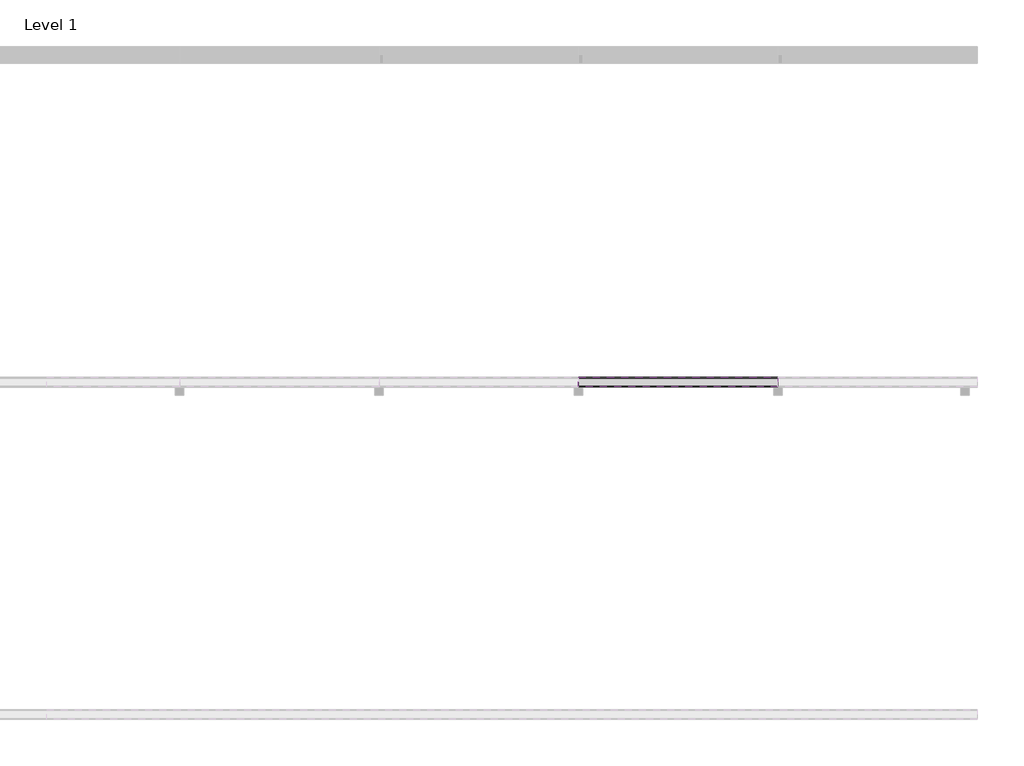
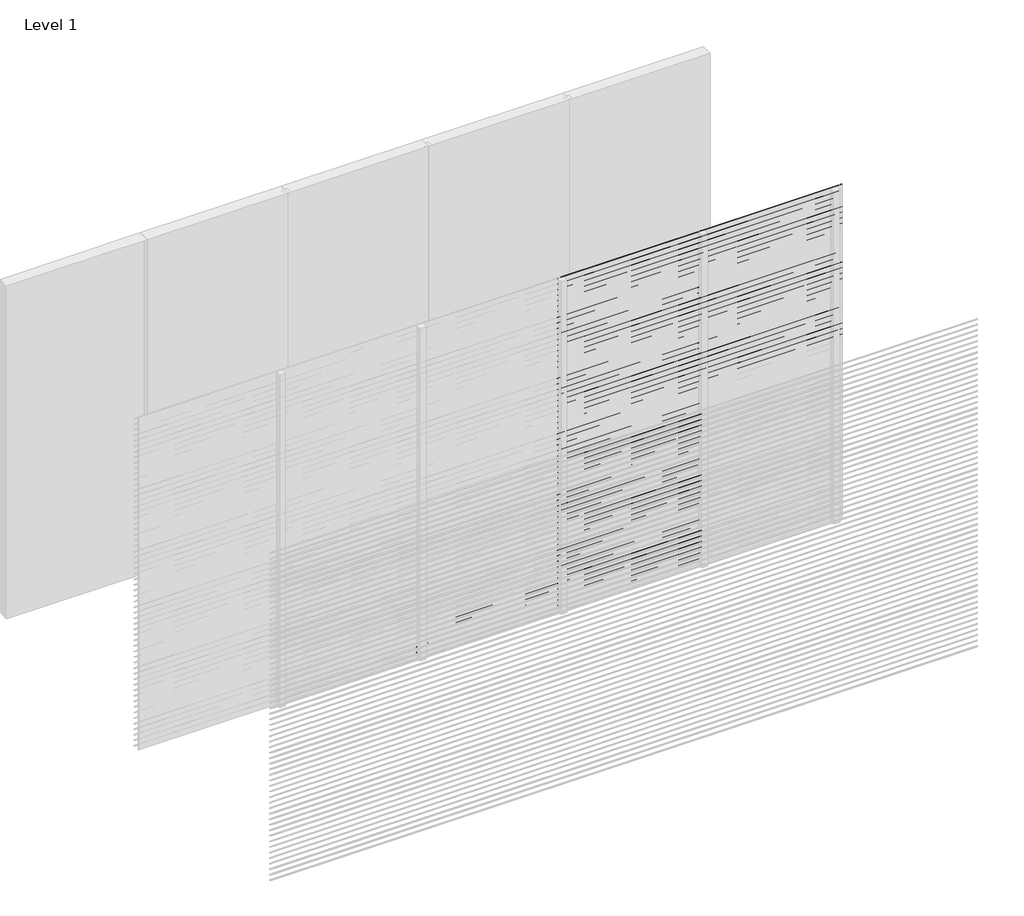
# One storey, part 12 of 16: 93 proxies.
"""IFC4 building model written with IfcOpenShell, lengths in millimetres."""

from ifc_helpers import new_model, si_unit, frame, origin, place, context, project, spatial, polyline, outline, extrude, element, save

model = new_model("IFC4")

# Units and contexts
model_context = context("Model", 3, world=origin())
ifc_project = project(units=[si_unit("LENGTHUNIT", "METRE", prefix="MILLI")], contexts=[model_context])

# Site, building, storey
site = spatial("IfcSite", under=ifc_project)
building = spatial("IfcBuilding", under=site)
storey = spatial("IfcBuildingStorey", under=building, Name="Level 1", Elevation=0.0)

# Proxies
placement = place(None, origin())
element("IfcBuildingElementProxy", 1, Name="Wall Sweeps", at=placement, inside=storey, context=model_context, shape_type="SweptSolid", body=[
    extrude(outline(polyline([(-5995.0, 250.0), (-5995.0, 248.0), (-5939.0, 204.0), (-5939.0, 196.0), (-5997.0, 241.5714286), (-5997.0, 250.0), (-5995.0, 250.0)])), frame((2400.0, 0.0, 0.0), z_axis=(1.0, 0.0, 0.0), x_axis=(0.0, 1.0, 0.0)), (0.0, 0.0, 1.0), 1200.0),
])
element("IfcBuildingElementProxy", 2, Name="Wall Sweeps", at=placement, inside=storey, context=model_context, shape_type="SweptSolid", body=[
    extrude(outline(polyline([(-5995.0, 200.0), (-5995.0, 198.0), (-5939.0, 154.0), (-5939.0, 146.0), (-5997.0, 191.5714286), (-5997.0, 200.0), (-5995.0, 200.0)])), frame((2400.0, 0.0, 0.0), z_axis=(1.0, 0.0, 0.0), x_axis=(0.0, 1.0, 0.0)), (0.0, 0.0, 1.0), 1200.0),
])
element("IfcBuildingElementProxy", 3, Name="Wall Sweeps", at=placement, inside=storey, context=model_context, shape_type="SweptSolid", body=[
    extrude(outline(polyline([(-5995.0, 150.0), (-5995.0, 148.0), (-5939.0, 104.0), (-5939.0, 96.0), (-5997.0, 141.5714286), (-5997.0, 150.0), (-5995.0, 150.0)])), frame((2400.0, 0.0, 0.0), z_axis=(1.0, 0.0, 0.0), x_axis=(0.0, 1.0, 0.0)), (0.0, 0.0, 1.0), 1200.0),
])
element("IfcBuildingElementProxy", 4, Name="Wall Sweeps", at=placement, inside=storey, context=model_context, shape_type="SweptSolid", body=[
    extrude(outline(polyline([(-5995.0, 100.0), (-5995.0, 98.0), (-5939.0, 54.0), (-5939.0, 46.0), (-5997.0, 91.5714286), (-5997.0, 100.0), (-5995.0, 100.0)])), frame((2400.0, 0.0, 0.0), z_axis=(1.0, 0.0, 0.0), x_axis=(0.0, 1.0, 0.0)), (0.0, 0.0, 1.0), 1200.0),
])
element("IfcBuildingElementProxy", 5, Name="Wall Sweeps", at=placement, inside=storey, context=model_context, shape_type="SweptSolid", body=[
    extrude(outline(polyline([(-5995.0, 50.0), (-5995.0, 48.0), (-5939.0, 4.0), (-5939.0, -4.0), (-5997.0, 41.5714286), (-5997.0, 50.0), (-5995.0, 50.0)])), frame((2400.0, 0.0, 0.0), z_axis=(1.0, 0.0, 0.0), x_axis=(0.0, 1.0, 0.0)), (0.0, 0.0, 1.0), 1200.0),
])
element("IfcBuildingElementProxy", 6, Name="Wall Sweeps", at=placement, inside=storey, context=model_context, shape_type="SweptSolid", body=[
    extrude(outline(polyline([(-5995.0, 3000.0), (-5995.0, 2998.0), (-5939.0, 2954.0), (-5939.0, 2946.0), (-5997.0, 2991.5714286), (-5997.0, 3000.0), (-5995.0, 3000.0)])), frame((3600.0, 0.0, 0.0), z_axis=(1.0, 0.0, 0.0), x_axis=(0.0, 1.0, 0.0)), (0.0, 0.0, 1.0), 1200.0),
])
element("IfcBuildingElementProxy", 7, Name="Wall Sweeps", at=placement, inside=storey, context=model_context, shape_type="SweptSolid", body=[
    extrude(outline(polyline([(-5995.0, 2950.0), (-5995.0, 2948.0), (-5939.0, 2904.0), (-5939.0, 2896.0), (-5997.0, 2941.5714286), (-5997.0, 2950.0), (-5995.0, 2950.0)])), frame((3600.0, 0.0, 0.0), z_axis=(1.0, 0.0, 0.0), x_axis=(0.0, 1.0, 0.0)), (0.0, 0.0, 1.0), 1200.0),
])
element("IfcBuildingElementProxy", 8, Name="Wall Sweeps", at=placement, inside=storey, context=model_context, shape_type="SweptSolid", body=[
    extrude(outline(polyline([(-5995.0, 2900.0), (-5995.0, 2898.0), (-5939.0, 2854.0), (-5939.0, 2846.0), (-5997.0, 2891.5714286), (-5997.0, 2900.0), (-5995.0, 2900.0)])), frame((3600.0, 0.0, 0.0), z_axis=(1.0, 0.0, 0.0), x_axis=(0.0, 1.0, 0.0)), (0.0, 0.0, 1.0), 1200.0),
])
element("IfcBuildingElementProxy", 9, Name="Wall Sweeps", at=placement, inside=storey, context=model_context, shape_type="SweptSolid", body=[
    extrude(outline(polyline([(-5995.0, 2850.0), (-5995.0, 2848.0), (-5939.0, 2804.0), (-5939.0, 2796.0), (-5997.0, 2841.5714286), (-5997.0, 2850.0), (-5995.0, 2850.0)])), frame((3600.0, 0.0, 0.0), z_axis=(1.0, 0.0, 0.0), x_axis=(0.0, 1.0, 0.0)), (0.0, 0.0, 1.0), 1200.0),
])
element("IfcBuildingElementProxy", 10, Name="Wall Sweeps", at=placement, inside=storey, context=model_context, shape_type="SweptSolid", body=[
    extrude(outline(polyline([(-5995.0, 2800.0), (-5995.0, 2798.0), (-5939.0, 2754.0), (-5939.0, 2746.0), (-5997.0, 2791.5714286), (-5997.0, 2800.0), (-5995.0, 2800.0)])), frame((3600.0, 0.0, 0.0), z_axis=(1.0, 0.0, 0.0), x_axis=(0.0, 1.0, 0.0)), (0.0, 0.0, 1.0), 1200.0),
])
element("IfcBuildingElementProxy", 11, Name="Wall Sweeps", at=placement, inside=storey, context=model_context, shape_type="SweptSolid", body=[
    extrude(outline(polyline([(-5995.0, 2750.0), (-5995.0, 2748.0), (-5939.0, 2704.0), (-5939.0, 2696.0), (-5997.0, 2741.5714286), (-5997.0, 2750.0), (-5995.0, 2750.0)])), frame((3600.0, 0.0, 0.0), z_axis=(1.0, 0.0, 0.0), x_axis=(0.0, 1.0, 0.0)), (0.0, 0.0, 1.0), 1200.0),
])
element("IfcBuildingElementProxy", 12, Name="Wall Sweeps", at=placement, inside=storey, context=model_context, shape_type="SweptSolid", body=[
    extrude(outline(polyline([(-5995.0, 2700.0), (-5995.0, 2698.0), (-5939.0, 2654.0), (-5939.0, 2646.0), (-5997.0, 2691.5714286), (-5997.0, 2700.0), (-5995.0, 2700.0)])), frame((3600.0, 0.0, 0.0), z_axis=(1.0, 0.0, 0.0), x_axis=(0.0, 1.0, 0.0)), (0.0, 0.0, 1.0), 1200.0),
])
element("IfcBuildingElementProxy", 13, Name="Wall Sweeps", at=placement, inside=storey, context=model_context, shape_type="SweptSolid", body=[
    extrude(outline(polyline([(-5995.0, 2650.0), (-5995.0, 2648.0), (-5939.0, 2604.0), (-5939.0, 2596.0), (-5997.0, 2641.5714286), (-5997.0, 2650.0), (-5995.0, 2650.0)])), frame((3600.0, 0.0, 0.0), z_axis=(1.0, 0.0, 0.0), x_axis=(0.0, 1.0, 0.0)), (0.0, 0.0, 1.0), 1200.0),
])
element("IfcBuildingElementProxy", 14, Name="Wall Sweeps", at=placement, inside=storey, context=model_context, shape_type="SweptSolid", body=[
    extrude(outline(polyline([(-5995.0, 2600.0), (-5995.0, 2598.0), (-5939.0, 2554.0), (-5939.0, 2546.0), (-5997.0, 2591.5714286), (-5997.0, 2600.0), (-5995.0, 2600.0)])), frame((3600.0, 0.0, 0.0), z_axis=(1.0, 0.0, 0.0), x_axis=(0.0, 1.0, 0.0)), (0.0, 0.0, 1.0), 1200.0),
])
element("IfcBuildingElementProxy", 15, Name="Wall Sweeps", at=placement, inside=storey, context=model_context, shape_type="SweptSolid", body=[
    extrude(outline(polyline([(-5995.0, 2550.0), (-5995.0, 2548.0), (-5939.0, 2504.0), (-5939.0, 2496.0), (-5997.0, 2541.5714286), (-5997.0, 2550.0), (-5995.0, 2550.0)])), frame((3600.0, 0.0, 0.0), z_axis=(1.0, 0.0, 0.0), x_axis=(0.0, 1.0, 0.0)), (0.0, 0.0, 1.0), 1200.0),
])
element("IfcBuildingElementProxy", 16, Name="Wall Sweeps", at=placement, inside=storey, context=model_context, shape_type="SweptSolid", body=[
    extrude(outline(polyline([(-5995.0, 2500.0), (-5995.0, 2498.0), (-5939.0, 2454.0), (-5939.0, 2446.0), (-5997.0, 2491.5714286), (-5997.0, 2500.0), (-5995.0, 2500.0)])), frame((3600.0, 0.0, 0.0), z_axis=(1.0, 0.0, 0.0), x_axis=(0.0, 1.0, 0.0)), (0.0, 0.0, 1.0), 1200.0),
])
element("IfcBuildingElementProxy", 17, Name="Wall Sweeps", at=placement, inside=storey, context=model_context, shape_type="SweptSolid", body=[
    extrude(outline(polyline([(-5995.0, 2450.0), (-5995.0, 2448.0), (-5939.0, 2404.0), (-5939.0, 2396.0), (-5997.0, 2441.5714286), (-5997.0, 2450.0), (-5995.0, 2450.0)])), frame((3600.0, 0.0, 0.0), z_axis=(1.0, 0.0, 0.0), x_axis=(0.0, 1.0, 0.0)), (0.0, 0.0, 1.0), 1200.0),
])
element("IfcBuildingElementProxy", 18, Name="Wall Sweeps", at=placement, inside=storey, context=model_context, shape_type="SweptSolid", body=[
    extrude(outline(polyline([(-5995.0, 2400.0), (-5995.0, 2398.0), (-5939.0, 2354.0), (-5939.0, 2346.0), (-5997.0, 2391.5714286), (-5997.0, 2400.0), (-5995.0, 2400.0)])), frame((3600.0, 0.0, 0.0), z_axis=(1.0, 0.0, 0.0), x_axis=(0.0, 1.0, 0.0)), (0.0, 0.0, 1.0), 1200.0),
])
element("IfcBuildingElementProxy", 19, Name="Wall Sweeps", at=placement, inside=storey, context=model_context, shape_type="SweptSolid", body=[
    extrude(outline(polyline([(-5995.0, 2350.0), (-5995.0, 2348.0), (-5939.0, 2304.0), (-5939.0, 2296.0), (-5997.0, 2341.5714286), (-5997.0, 2350.0), (-5995.0, 2350.0)])), frame((3600.0, 0.0, 0.0), z_axis=(1.0, 0.0, 0.0), x_axis=(0.0, 1.0, 0.0)), (0.0, 0.0, 1.0), 1200.0),
])
element("IfcBuildingElementProxy", 20, Name="Wall Sweeps", at=placement, inside=storey, context=model_context, shape_type="SweptSolid", body=[
    extrude(outline(polyline([(-5995.0, 2300.0), (-5995.0, 2298.0), (-5939.0, 2254.0), (-5939.0, 2246.0), (-5997.0, 2291.5714286), (-5997.0, 2300.0), (-5995.0, 2300.0)])), frame((3600.0, 0.0, 0.0), z_axis=(1.0, 0.0, 0.0), x_axis=(0.0, 1.0, 0.0)), (0.0, 0.0, 1.0), 1200.0),
])
element("IfcBuildingElementProxy", 21, Name="Wall Sweeps", at=placement, inside=storey, context=model_context, shape_type="SweptSolid", body=[
    extrude(outline(polyline([(-5995.0, 2250.0), (-5995.0, 2248.0), (-5939.0, 2204.0), (-5939.0, 2196.0), (-5997.0, 2241.5714286), (-5997.0, 2250.0), (-5995.0, 2250.0)])), frame((3600.0, 0.0, 0.0), z_axis=(1.0, 0.0, 0.0), x_axis=(0.0, 1.0, 0.0)), (0.0, 0.0, 1.0), 1200.0),
])
element("IfcBuildingElementProxy", 22, Name="Wall Sweeps", at=placement, inside=storey, context=model_context, shape_type="SweptSolid", body=[
    extrude(outline(polyline([(-5995.0, 2200.0), (-5995.0, 2198.0), (-5939.0, 2154.0), (-5939.0, 2146.0), (-5997.0, 2191.5714286), (-5997.0, 2200.0), (-5995.0, 2200.0)])), frame((3600.0, 0.0, 0.0), z_axis=(1.0, 0.0, 0.0), x_axis=(0.0, 1.0, 0.0)), (0.0, 0.0, 1.0), 1200.0),
])
element("IfcBuildingElementProxy", 23, Name="Wall Sweeps", at=placement, inside=storey, context=model_context, shape_type="SweptSolid", body=[
    extrude(outline(polyline([(-5995.0, 2150.0), (-5995.0, 2148.0), (-5939.0, 2104.0), (-5939.0, 2096.0), (-5997.0, 2141.5714286), (-5997.0, 2150.0), (-5995.0, 2150.0)])), frame((3600.0, 0.0, 0.0), z_axis=(1.0, 0.0, 0.0), x_axis=(0.0, 1.0, 0.0)), (0.0, 0.0, 1.0), 1200.0),
])
element("IfcBuildingElementProxy", 24, Name="Wall Sweeps", at=placement, inside=storey, context=model_context, shape_type="SweptSolid", body=[
    extrude(outline(polyline([(-5995.0, 2100.0), (-5995.0, 2098.0), (-5939.0, 2054.0), (-5939.0, 2046.0), (-5997.0, 2091.5714286), (-5997.0, 2100.0), (-5995.0, 2100.0)])), frame((3600.0, 0.0, 0.0), z_axis=(1.0, 0.0, 0.0), x_axis=(0.0, 1.0, 0.0)), (0.0, 0.0, 1.0), 1200.0),
])
element("IfcBuildingElementProxy", 25, Name="Wall Sweeps", at=placement, inside=storey, context=model_context, shape_type="SweptSolid", body=[
    extrude(outline(polyline([(-5995.0, 2050.0), (-5995.0, 2048.0), (-5939.0, 2004.0), (-5939.0, 1996.0), (-5997.0, 2041.5714286), (-5997.0, 2050.0), (-5995.0, 2050.0)])), frame((3600.0, 0.0, 0.0), z_axis=(1.0, 0.0, 0.0), x_axis=(0.0, 1.0, 0.0)), (0.0, 0.0, 1.0), 1200.0),
])
element("IfcBuildingElementProxy", 26, Name="Wall Sweeps", at=placement, inside=storey, context=model_context, shape_type="SweptSolid", body=[
    extrude(outline(polyline([(-5995.0, 2000.0), (-5995.0, 1998.0), (-5939.0, 1954.0), (-5939.0, 1946.0), (-5997.0, 1991.5714286), (-5997.0, 2000.0), (-5995.0, 2000.0)])), frame((3600.0, 0.0, 0.0), z_axis=(1.0, 0.0, 0.0), x_axis=(0.0, 1.0, 0.0)), (0.0, 0.0, 1.0), 1200.0),
])
element("IfcBuildingElementProxy", 27, Name="Wall Sweeps", at=placement, inside=storey, context=model_context, shape_type="SweptSolid", body=[
    extrude(outline(polyline([(-5995.0, 1950.0), (-5995.0, 1948.0), (-5939.0, 1904.0), (-5939.0, 1896.0), (-5997.0, 1941.5714286), (-5997.0, 1950.0), (-5995.0, 1950.0)])), frame((3600.0, 0.0, 0.0), z_axis=(1.0, 0.0, 0.0), x_axis=(0.0, 1.0, 0.0)), (0.0, 0.0, 1.0), 1200.0),
])
element("IfcBuildingElementProxy", 28, Name="Wall Sweeps", at=placement, inside=storey, context=model_context, shape_type="SweptSolid", body=[
    extrude(outline(polyline([(-5995.0, 1900.0), (-5995.0, 1898.0), (-5939.0, 1854.0), (-5939.0, 1846.0), (-5997.0, 1891.5714286), (-5997.0, 1900.0), (-5995.0, 1900.0)])), frame((3600.0, 0.0, 0.0), z_axis=(1.0, 0.0, 0.0), x_axis=(0.0, 1.0, 0.0)), (0.0, 0.0, 1.0), 1200.0),
])
element("IfcBuildingElementProxy", 29, Name="Wall Sweeps", at=placement, inside=storey, context=model_context, shape_type="SweptSolid", body=[
    extrude(outline(polyline([(-5995.0, 1850.0), (-5995.0, 1848.0), (-5939.0, 1804.0), (-5939.0, 1796.0), (-5997.0, 1841.5714286), (-5997.0, 1850.0), (-5995.0, 1850.0)])), frame((3600.0, 0.0, 0.0), z_axis=(1.0, 0.0, 0.0), x_axis=(0.0, 1.0, 0.0)), (0.0, 0.0, 1.0), 1200.0),
])
element("IfcBuildingElementProxy", 30, Name="Wall Sweeps", at=placement, inside=storey, context=model_context, shape_type="SweptSolid", body=[
    extrude(outline(polyline([(-5995.0, 1800.0), (-5995.0, 1798.0), (-5939.0, 1754.0), (-5939.0, 1746.0), (-5997.0, 1791.5714286), (-5997.0, 1800.0), (-5995.0, 1800.0)])), frame((3600.0, 0.0, 0.0), z_axis=(1.0, 0.0, 0.0), x_axis=(0.0, 1.0, 0.0)), (0.0, 0.0, 1.0), 1200.0),
])
element("IfcBuildingElementProxy", 31, Name="Wall Sweeps", at=placement, inside=storey, context=model_context, shape_type="SweptSolid", body=[
    extrude(outline(polyline([(-5995.0, 1750.0), (-5995.0, 1748.0), (-5939.0, 1704.0), (-5939.0, 1696.0), (-5997.0, 1741.5714286), (-5997.0, 1750.0), (-5995.0, 1750.0)])), frame((3600.0, 0.0, 0.0), z_axis=(1.0, 0.0, 0.0), x_axis=(0.0, 1.0, 0.0)), (0.0, 0.0, 1.0), 1200.0),
])
element("IfcBuildingElementProxy", 32, Name="Wall Sweeps", at=placement, inside=storey, context=model_context, shape_type="SweptSolid", body=[
    extrude(outline(polyline([(-5995.0, 1700.0), (-5995.0, 1698.0), (-5939.0, 1654.0), (-5939.0, 1646.0), (-5997.0, 1691.5714286), (-5997.0, 1700.0), (-5995.0, 1700.0)])), frame((3600.0, 0.0, 0.0), z_axis=(1.0, 0.0, 0.0), x_axis=(0.0, 1.0, 0.0)), (0.0, 0.0, 1.0), 1200.0),
])
element("IfcBuildingElementProxy", 33, Name="Wall Sweeps", at=placement, inside=storey, context=model_context, shape_type="SweptSolid", body=[
    extrude(outline(polyline([(-5995.0, 1650.0), (-5995.0, 1648.0), (-5939.0, 1604.0), (-5939.0, 1596.0), (-5997.0, 1641.5714286), (-5997.0, 1650.0), (-5995.0, 1650.0)])), frame((3600.0, 0.0, 0.0), z_axis=(1.0, 0.0, 0.0), x_axis=(0.0, 1.0, 0.0)), (0.0, 0.0, 1.0), 1200.0),
])
element("IfcBuildingElementProxy", 34, Name="Wall Sweeps", at=placement, inside=storey, context=model_context, shape_type="SweptSolid", body=[
    extrude(outline(polyline([(-5995.0, 1600.0), (-5995.0, 1598.0), (-5939.0, 1554.0), (-5939.0, 1546.0), (-5997.0, 1591.5714286), (-5997.0, 1600.0), (-5995.0, 1600.0)])), frame((3600.0, 0.0, 0.0), z_axis=(1.0, 0.0, 0.0), x_axis=(0.0, 1.0, 0.0)), (0.0, 0.0, 1.0), 1200.0),
])
element("IfcBuildingElementProxy", 35, Name="Wall Sweeps", at=placement, inside=storey, context=model_context, shape_type="SweptSolid", body=[
    extrude(outline(polyline([(-5995.0, 1550.0), (-5995.0, 1548.0), (-5939.0, 1504.0), (-5939.0, 1496.0), (-5997.0, 1541.5714286), (-5997.0, 1550.0), (-5995.0, 1550.0)])), frame((3600.0, 0.0, 0.0), z_axis=(1.0, 0.0, 0.0), x_axis=(0.0, 1.0, 0.0)), (0.0, 0.0, 1.0), 1200.0),
])
element("IfcBuildingElementProxy", 36, Name="Wall Sweeps", at=placement, inside=storey, context=model_context, shape_type="SweptSolid", body=[
    extrude(outline(polyline([(-5995.0, 1500.0), (-5995.0, 1498.0), (-5939.0, 1454.0), (-5939.0, 1446.0), (-5997.0, 1491.5714286), (-5997.0, 1500.0), (-5995.0, 1500.0)])), frame((3600.0, 0.0, 0.0), z_axis=(1.0, 0.0, 0.0), x_axis=(0.0, 1.0, 0.0)), (0.0, 0.0, 1.0), 1200.0),
])
element("IfcBuildingElementProxy", 37, Name="Wall Sweeps", at=placement, inside=storey, context=model_context, shape_type="SweptSolid", body=[
    extrude(outline(polyline([(-5995.0, 1450.0), (-5995.0, 1448.0), (-5939.0, 1404.0), (-5939.0, 1396.0), (-5997.0, 1441.5714286), (-5997.0, 1450.0), (-5995.0, 1450.0)])), frame((3600.0, 0.0, 0.0), z_axis=(1.0, 0.0, 0.0), x_axis=(0.0, 1.0, 0.0)), (0.0, 0.0, 1.0), 1200.0),
])
element("IfcBuildingElementProxy", 38, Name="Wall Sweeps", at=placement, inside=storey, context=model_context, shape_type="SweptSolid", body=[
    extrude(outline(polyline([(-5995.0, 1400.0), (-5995.0, 1398.0), (-5939.0, 1354.0), (-5939.0, 1346.0), (-5997.0, 1391.5714286), (-5997.0, 1400.0), (-5995.0, 1400.0)])), frame((3600.0, 0.0, 0.0), z_axis=(1.0, 0.0, 0.0), x_axis=(0.0, 1.0, 0.0)), (0.0, 0.0, 1.0), 1200.0),
])
element("IfcBuildingElementProxy", 39, Name="Wall Sweeps", at=placement, inside=storey, context=model_context, shape_type="SweptSolid", body=[
    extrude(outline(polyline([(-5995.0, 1350.0), (-5995.0, 1348.0), (-5939.0, 1304.0), (-5939.0, 1296.0), (-5997.0, 1341.5714286), (-5997.0, 1350.0), (-5995.0, 1350.0)])), frame((3600.0, 0.0, 0.0), z_axis=(1.0, 0.0, 0.0), x_axis=(0.0, 1.0, 0.0)), (0.0, 0.0, 1.0), 1200.0),
])
element("IfcBuildingElementProxy", 40, Name="Wall Sweeps", at=placement, inside=storey, context=model_context, shape_type="SweptSolid", body=[
    extrude(outline(polyline([(-5995.0, 1300.0), (-5995.0, 1298.0), (-5939.0, 1254.0), (-5939.0, 1246.0), (-5997.0, 1291.5714286), (-5997.0, 1300.0), (-5995.0, 1300.0)])), frame((3600.0, 0.0, 0.0), z_axis=(1.0, 0.0, 0.0), x_axis=(0.0, 1.0, 0.0)), (0.0, 0.0, 1.0), 1200.0),
])
element("IfcBuildingElementProxy", 41, Name="Wall Sweeps", at=placement, inside=storey, context=model_context, shape_type="SweptSolid", body=[
    extrude(outline(polyline([(-5995.0, 1250.0), (-5995.0, 1248.0), (-5939.0, 1204.0), (-5939.0, 1196.0), (-5997.0, 1241.5714286), (-5997.0, 1250.0), (-5995.0, 1250.0)])), frame((3600.0, 0.0, 0.0), z_axis=(1.0, 0.0, 0.0), x_axis=(0.0, 1.0, 0.0)), (0.0, 0.0, 1.0), 1200.0),
])
element("IfcBuildingElementProxy", 42, Name="Wall Sweeps", at=placement, inside=storey, context=model_context, shape_type="SweptSolid", body=[
    extrude(outline(polyline([(-5995.0, 1200.0), (-5995.0, 1198.0), (-5939.0, 1154.0), (-5939.0, 1146.0), (-5997.0, 1191.5714286), (-5997.0, 1200.0), (-5995.0, 1200.0)])), frame((3600.0, 0.0, 0.0), z_axis=(1.0, 0.0, 0.0), x_axis=(0.0, 1.0, 0.0)), (0.0, 0.0, 1.0), 1200.0),
])
element("IfcBuildingElementProxy", 43, Name="Wall Sweeps", at=placement, inside=storey, context=model_context, shape_type="SweptSolid", body=[
    extrude(outline(polyline([(-5995.0, 1150.0), (-5995.0, 1148.0), (-5939.0, 1104.0), (-5939.0, 1096.0), (-5997.0, 1141.5714286), (-5997.0, 1150.0), (-5995.0, 1150.0)])), frame((3600.0, 0.0, 0.0), z_axis=(1.0, 0.0, 0.0), x_axis=(0.0, 1.0, 0.0)), (0.0, 0.0, 1.0), 1200.0),
])
element("IfcBuildingElementProxy", 44, Name="Wall Sweeps", at=placement, inside=storey, context=model_context, shape_type="SweptSolid", body=[
    extrude(outline(polyline([(-5995.0, 1100.0), (-5995.0, 1098.0), (-5939.0, 1054.0), (-5939.0, 1046.0), (-5997.0, 1091.5714286), (-5997.0, 1100.0), (-5995.0, 1100.0)])), frame((3600.0, 0.0, 0.0), z_axis=(1.0, 0.0, 0.0), x_axis=(0.0, 1.0, 0.0)), (0.0, 0.0, 1.0), 1200.0),
])
element("IfcBuildingElementProxy", 45, Name="Wall Sweeps", at=placement, inside=storey, context=model_context, shape_type="SweptSolid", body=[
    extrude(outline(polyline([(-5995.0, 1050.0), (-5995.0, 1048.0), (-5939.0, 1004.0), (-5939.0, 996.0), (-5997.0, 1041.5714286), (-5997.0, 1050.0), (-5995.0, 1050.0)])), frame((3600.0, 0.0, 0.0), z_axis=(1.0, 0.0, 0.0), x_axis=(0.0, 1.0, 0.0)), (0.0, 0.0, 1.0), 1200.0),
])
element("IfcBuildingElementProxy", 46, Name="Wall Sweeps", at=placement, inside=storey, context=model_context, shape_type="SweptSolid", body=[
    extrude(outline(polyline([(-5995.0, 1000.0), (-5995.0, 998.0), (-5939.0, 954.0), (-5939.0, 946.0), (-5997.0, 991.5714286), (-5997.0, 1000.0), (-5995.0, 1000.0)])), frame((3600.0, 0.0, 0.0), z_axis=(1.0, 0.0, 0.0), x_axis=(0.0, 1.0, 0.0)), (0.0, 0.0, 1.0), 1200.0),
])
element("IfcBuildingElementProxy", 47, Name="Wall Sweeps", at=placement, inside=storey, context=model_context, shape_type="SweptSolid", body=[
    extrude(outline(polyline([(-5995.0, 950.0), (-5995.0, 948.0), (-5939.0, 904.0), (-5939.0, 896.0), (-5997.0, 941.5714286), (-5997.0, 950.0), (-5995.0, 950.0)])), frame((3600.0, 0.0, 0.0), z_axis=(1.0, 0.0, 0.0), x_axis=(0.0, 1.0, 0.0)), (0.0, 0.0, 1.0), 1200.0),
])
element("IfcBuildingElementProxy", 48, Name="Wall Sweeps", at=placement, inside=storey, context=model_context, shape_type="SweptSolid", body=[
    extrude(outline(polyline([(-5995.0, 900.0), (-5995.0, 898.0), (-5939.0, 854.0), (-5939.0, 846.0), (-5997.0, 891.5714286), (-5997.0, 900.0), (-5995.0, 900.0)])), frame((3600.0, 0.0, 0.0), z_axis=(1.0, 0.0, 0.0), x_axis=(0.0, 1.0, 0.0)), (0.0, 0.0, 1.0), 1200.0),
])
element("IfcBuildingElementProxy", 49, Name="Wall Sweeps", at=placement, inside=storey, context=model_context, shape_type="SweptSolid", body=[
    extrude(outline(polyline([(-5995.0, 850.0), (-5995.0, 848.0), (-5939.0, 804.0), (-5939.0, 796.0), (-5997.0, 841.5714286), (-5997.0, 850.0), (-5995.0, 850.0)])), frame((3600.0, 0.0, 0.0), z_axis=(1.0, 0.0, 0.0), x_axis=(0.0, 1.0, 0.0)), (0.0, 0.0, 1.0), 1200.0),
])
element("IfcBuildingElementProxy", 50, Name="Wall Sweeps", at=placement, inside=storey, context=model_context, shape_type="SweptSolid", body=[
    extrude(outline(polyline([(-5995.0, 800.0), (-5995.0, 798.0), (-5939.0, 754.0), (-5939.0, 746.0), (-5997.0, 791.5714286), (-5997.0, 800.0), (-5995.0, 800.0)])), frame((3600.0, 0.0, 0.0), z_axis=(1.0, 0.0, 0.0), x_axis=(0.0, 1.0, 0.0)), (0.0, 0.0, 1.0), 1200.0),
])
element("IfcBuildingElementProxy", 51, Name="Wall Sweeps", at=placement, inside=storey, context=model_context, shape_type="SweptSolid", body=[
    extrude(outline(polyline([(-5995.0, 750.0), (-5995.0, 748.0), (-5939.0, 704.0), (-5939.0, 696.0), (-5997.0, 741.5714286), (-5997.0, 750.0), (-5995.0, 750.0)])), frame((3600.0, 0.0, 0.0), z_axis=(1.0, 0.0, 0.0), x_axis=(0.0, 1.0, 0.0)), (0.0, 0.0, 1.0), 1200.0),
])
element("IfcBuildingElementProxy", 52, Name="Wall Sweeps", at=placement, inside=storey, context=model_context, shape_type="SweptSolid", body=[
    extrude(outline(polyline([(-5995.0, 700.0), (-5995.0, 698.0), (-5939.0, 654.0), (-5939.0, 646.0), (-5997.0, 691.5714286), (-5997.0, 700.0), (-5995.0, 700.0)])), frame((3600.0, 0.0, 0.0), z_axis=(1.0, 0.0, 0.0), x_axis=(0.0, 1.0, 0.0)), (0.0, 0.0, 1.0), 1200.0),
])
element("IfcBuildingElementProxy", 53, Name="Wall Sweeps", at=placement, inside=storey, context=model_context, shape_type="SweptSolid", body=[
    extrude(outline(polyline([(-5995.0, 650.0), (-5995.0, 648.0), (-5939.0, 604.0), (-5939.0, 596.0), (-5997.0, 641.5714286), (-5997.0, 650.0), (-5995.0, 650.0)])), frame((3600.0, 0.0, 0.0), z_axis=(1.0, 0.0, 0.0), x_axis=(0.0, 1.0, 0.0)), (0.0, 0.0, 1.0), 1200.0),
])
element("IfcBuildingElementProxy", 54, Name="Wall Sweeps", at=placement, inside=storey, context=model_context, shape_type="SweptSolid", body=[
    extrude(outline(polyline([(-5995.0, 600.0), (-5995.0, 598.0), (-5939.0, 554.0), (-5939.0, 546.0), (-5997.0, 591.5714286), (-5997.0, 600.0), (-5995.0, 600.0)])), frame((3600.0, 0.0, 0.0), z_axis=(1.0, 0.0, 0.0), x_axis=(0.0, 1.0, 0.0)), (0.0, 0.0, 1.0), 1200.0),
])
element("IfcBuildingElementProxy", 55, Name="Wall Sweeps", at=placement, inside=storey, context=model_context, shape_type="SweptSolid", body=[
    extrude(outline(polyline([(-5995.0, 550.0), (-5995.0, 548.0), (-5939.0, 504.0), (-5939.0, 496.0), (-5997.0, 541.5714286), (-5997.0, 550.0), (-5995.0, 550.0)])), frame((3600.0, 0.0, 0.0), z_axis=(1.0, 0.0, 0.0), x_axis=(0.0, 1.0, 0.0)), (0.0, 0.0, 1.0), 1200.0),
])
element("IfcBuildingElementProxy", 56, Name="Wall Sweeps", at=placement, inside=storey, context=model_context, shape_type="SweptSolid", body=[
    extrude(outline(polyline([(-5995.0, 500.0), (-5995.0, 498.0), (-5939.0, 454.0), (-5939.0, 446.0), (-5997.0, 491.5714286), (-5997.0, 500.0), (-5995.0, 500.0)])), frame((3600.0, 0.0, 0.0), z_axis=(1.0, 0.0, 0.0), x_axis=(0.0, 1.0, 0.0)), (0.0, 0.0, 1.0), 1200.0),
])
element("IfcBuildingElementProxy", 57, Name="Wall Sweeps", at=placement, inside=storey, context=model_context, shape_type="SweptSolid", body=[
    extrude(outline(polyline([(-5995.0, 450.0), (-5995.0, 448.0), (-5939.0, 404.0), (-5939.0, 396.0), (-5997.0, 441.5714286), (-5997.0, 450.0), (-5995.0, 450.0)])), frame((3600.0, 0.0, 0.0), z_axis=(1.0, 0.0, 0.0), x_axis=(0.0, 1.0, 0.0)), (0.0, 0.0, 1.0), 1200.0),
])
element("IfcBuildingElementProxy", 58, Name="Wall Sweeps", at=placement, inside=storey, context=model_context, shape_type="SweptSolid", body=[
    extrude(outline(polyline([(-5995.0, 400.0), (-5995.0, 398.0), (-5939.0, 354.0), (-5939.0, 346.0), (-5997.0, 391.5714286), (-5997.0, 400.0), (-5995.0, 400.0)])), frame((3600.0, 0.0, 0.0), z_axis=(1.0, 0.0, 0.0), x_axis=(0.0, 1.0, 0.0)), (0.0, 0.0, 1.0), 1200.0),
])
element("IfcBuildingElementProxy", 59, Name="Wall Sweeps", at=placement, inside=storey, context=model_context, shape_type="SweptSolid", body=[
    extrude(outline(polyline([(-5995.0, 350.0), (-5995.0, 348.0), (-5939.0, 304.0), (-5939.0, 296.0), (-5997.0, 341.5714286), (-5997.0, 350.0), (-5995.0, 350.0)])), frame((3600.0, 0.0, 0.0), z_axis=(1.0, 0.0, 0.0), x_axis=(0.0, 1.0, 0.0)), (0.0, 0.0, 1.0), 1200.0),
])
element("IfcBuildingElementProxy", 60, Name="Wall Sweeps", at=placement, inside=storey, context=model_context, shape_type="SweptSolid", body=[
    extrude(outline(polyline([(-5995.0, 300.0), (-5995.0, 298.0), (-5939.0, 254.0), (-5939.0, 246.0), (-5997.0, 291.5714286), (-5997.0, 300.0), (-5995.0, 300.0)])), frame((3600.0, 0.0, 0.0), z_axis=(1.0, 0.0, 0.0), x_axis=(0.0, 1.0, 0.0)), (0.0, 0.0, 1.0), 1200.0),
])
element("IfcBuildingElementProxy", 61, Name="Wall Sweeps", at=placement, inside=storey, context=model_context, shape_type="SweptSolid", body=[
    extrude(outline(polyline([(-5995.0, 250.0), (-5995.0, 248.0), (-5939.0, 204.0), (-5939.0, 196.0), (-5997.0, 241.5714286), (-5997.0, 250.0), (-5995.0, 250.0)])), frame((3600.0, 0.0, 0.0), z_axis=(1.0, 0.0, 0.0), x_axis=(0.0, 1.0, 0.0)), (0.0, 0.0, 1.0), 1200.0),
])
element("IfcBuildingElementProxy", 62, Name="Wall Sweeps", at=placement, inside=storey, context=model_context, shape_type="SweptSolid", body=[
    extrude(outline(polyline([(-5995.0, 200.0), (-5995.0, 198.0), (-5939.0, 154.0), (-5939.0, 146.0), (-5997.0, 191.5714286), (-5997.0, 200.0), (-5995.0, 200.0)])), frame((3600.0, 0.0, 0.0), z_axis=(1.0, 0.0, 0.0), x_axis=(0.0, 1.0, 0.0)), (0.0, 0.0, 1.0), 1200.0),
])
element("IfcBuildingElementProxy", 63, Name="Wall Sweeps", at=placement, inside=storey, context=model_context, shape_type="SweptSolid", body=[
    extrude(outline(polyline([(-5995.0, 150.0), (-5995.0, 148.0), (-5939.0, 104.0), (-5939.0, 96.0), (-5997.0, 141.5714286), (-5997.0, 150.0), (-5995.0, 150.0)])), frame((3600.0, 0.0, 0.0), z_axis=(1.0, 0.0, 0.0), x_axis=(0.0, 1.0, 0.0)), (0.0, 0.0, 1.0), 1200.0),
])
element("IfcBuildingElementProxy", 64, Name="Wall Sweeps", at=placement, inside=storey, context=model_context, shape_type="SweptSolid", body=[
    extrude(outline(polyline([(-5995.0, 100.0), (-5995.0, 98.0), (-5939.0, 54.0), (-5939.0, 46.0), (-5997.0, 91.5714286), (-5997.0, 100.0), (-5995.0, 100.0)])), frame((3600.0, 0.0, 0.0), z_axis=(1.0, 0.0, 0.0), x_axis=(0.0, 1.0, 0.0)), (0.0, 0.0, 1.0), 1200.0),
])
element("IfcBuildingElementProxy", 65, Name="Wall Sweeps", at=placement, inside=storey, context=model_context, shape_type="SweptSolid", body=[
    extrude(outline(polyline([(-5995.0, 50.0), (-5995.0, 48.0), (-5939.0, 4.0), (-5939.0, -4.0), (-5997.0, 41.5714286), (-5997.0, 50.0), (-5995.0, 50.0)])), frame((3600.0, 0.0, 0.0), z_axis=(1.0, 0.0, 0.0), x_axis=(0.0, 1.0, 0.0)), (0.0, 0.0, 1.0), 1200.0),
])
element("IfcBuildingElementProxy", 66, Name="Wall Sweeps", at=placement, inside=storey, context=model_context, shape_type="SweptSolid", body=[
    extrude(outline(polyline([(-5995.0, 3000.0), (-5995.0, 2998.0), (-5939.0, 2954.0), (-5939.0, 2946.0), (-5997.0, 2991.5714286), (-5997.0, 3000.0), (-5995.0, 3000.0)])), frame((4800.0, 0.0, 0.0), z_axis=(1.0, 0.0, 0.0), x_axis=(0.0, 1.0, 0.0)), (0.0, 0.0, 1.0), 1200.0),
])
element("IfcBuildingElementProxy", 67, Name="Wall Sweeps", at=placement, inside=storey, context=model_context, shape_type="SweptSolid", body=[
    extrude(outline(polyline([(-5995.0, 2950.0), (-5995.0, 2948.0), (-5939.0, 2904.0), (-5939.0, 2896.0), (-5997.0, 2941.5714286), (-5997.0, 2950.0), (-5995.0, 2950.0)])), frame((4800.0, 0.0, 0.0), z_axis=(1.0, 0.0, 0.0), x_axis=(0.0, 1.0, 0.0)), (0.0, 0.0, 1.0), 1200.0),
])
element("IfcBuildingElementProxy", 68, Name="Wall Sweeps", at=placement, inside=storey, context=model_context, shape_type="SweptSolid", body=[
    extrude(outline(polyline([(-5995.0, 2900.0), (-5995.0, 2898.0), (-5939.0, 2854.0), (-5939.0, 2846.0), (-5997.0, 2891.5714286), (-5997.0, 2900.0), (-5995.0, 2900.0)])), frame((4800.0, 0.0, 0.0), z_axis=(1.0, 0.0, 0.0), x_axis=(0.0, 1.0, 0.0)), (0.0, 0.0, 1.0), 1200.0),
])
element("IfcBuildingElementProxy", 69, Name="Wall Sweeps", at=placement, inside=storey, context=model_context, shape_type="SweptSolid", body=[
    extrude(outline(polyline([(-5995.0, 2850.0), (-5995.0, 2848.0), (-5939.0, 2804.0), (-5939.0, 2796.0), (-5997.0, 2841.5714286), (-5997.0, 2850.0), (-5995.0, 2850.0)])), frame((4800.0, 0.0, 0.0), z_axis=(1.0, 0.0, 0.0), x_axis=(0.0, 1.0, 0.0)), (0.0, 0.0, 1.0), 1200.0),
])
element("IfcBuildingElementProxy", 70, Name="Wall Sweeps", at=placement, inside=storey, context=model_context, shape_type="SweptSolid", body=[
    extrude(outline(polyline([(-5995.0, 2800.0), (-5995.0, 2798.0), (-5939.0, 2754.0), (-5939.0, 2746.0), (-5997.0, 2791.5714286), (-5997.0, 2800.0), (-5995.0, 2800.0)])), frame((4800.0, 0.0, 0.0), z_axis=(1.0, 0.0, 0.0), x_axis=(0.0, 1.0, 0.0)), (0.0, 0.0, 1.0), 1200.0),
])
element("IfcBuildingElementProxy", 71, Name="Wall Sweeps", at=placement, inside=storey, context=model_context, shape_type="SweptSolid", body=[
    extrude(outline(polyline([(-5995.0, 2750.0), (-5995.0, 2748.0), (-5939.0, 2704.0), (-5939.0, 2696.0), (-5997.0, 2741.5714286), (-5997.0, 2750.0), (-5995.0, 2750.0)])), frame((4800.0, 0.0, 0.0), z_axis=(1.0, 0.0, 0.0), x_axis=(0.0, 1.0, 0.0)), (0.0, 0.0, 1.0), 1200.0),
])
element("IfcBuildingElementProxy", 72, Name="Wall Sweeps", at=placement, inside=storey, context=model_context, shape_type="SweptSolid", body=[
    extrude(outline(polyline([(-5995.0, 2700.0), (-5995.0, 2698.0), (-5939.0, 2654.0), (-5939.0, 2646.0), (-5997.0, 2691.5714286), (-5997.0, 2700.0), (-5995.0, 2700.0)])), frame((4800.0, 0.0, 0.0), z_axis=(1.0, 0.0, 0.0), x_axis=(0.0, 1.0, 0.0)), (0.0, 0.0, 1.0), 1200.0),
])
element("IfcBuildingElementProxy", 73, Name="Wall Sweeps", at=placement, inside=storey, context=model_context, shape_type="SweptSolid", body=[
    extrude(outline(polyline([(-5995.0, 2650.0), (-5995.0, 2648.0), (-5939.0, 2604.0), (-5939.0, 2596.0), (-5997.0, 2641.5714286), (-5997.0, 2650.0), (-5995.0, 2650.0)])), frame((4800.0, 0.0, 0.0), z_axis=(1.0, 0.0, 0.0), x_axis=(0.0, 1.0, 0.0)), (0.0, 0.0, 1.0), 1200.0),
])
element("IfcBuildingElementProxy", 74, Name="Wall Sweeps", at=placement, inside=storey, context=model_context, shape_type="SweptSolid", body=[
    extrude(outline(polyline([(-5995.0, 2600.0), (-5995.0, 2598.0), (-5939.0, 2554.0), (-5939.0, 2546.0), (-5997.0, 2591.5714286), (-5997.0, 2600.0), (-5995.0, 2600.0)])), frame((4800.0, 0.0, 0.0), z_axis=(1.0, 0.0, 0.0), x_axis=(0.0, 1.0, 0.0)), (0.0, 0.0, 1.0), 1200.0),
])
element("IfcBuildingElementProxy", 75, Name="Wall Sweeps", at=placement, inside=storey, context=model_context, shape_type="SweptSolid", body=[
    extrude(outline(polyline([(-5995.0, 2550.0), (-5995.0, 2548.0), (-5939.0, 2504.0), (-5939.0, 2496.0), (-5997.0, 2541.5714286), (-5997.0, 2550.0), (-5995.0, 2550.0)])), frame((4800.0, 0.0, 0.0), z_axis=(1.0, 0.0, 0.0), x_axis=(0.0, 1.0, 0.0)), (0.0, 0.0, 1.0), 1200.0),
])
element("IfcBuildingElementProxy", 76, Name="Wall Sweeps", at=placement, inside=storey, context=model_context, shape_type="SweptSolid", body=[
    extrude(outline(polyline([(-5995.0, 2500.0), (-5995.0, 2498.0), (-5939.0, 2454.0), (-5939.0, 2446.0), (-5997.0, 2491.5714286), (-5997.0, 2500.0), (-5995.0, 2500.0)])), frame((4800.0, 0.0, 0.0), z_axis=(1.0, 0.0, 0.0), x_axis=(0.0, 1.0, 0.0)), (0.0, 0.0, 1.0), 1200.0),
])
element("IfcBuildingElementProxy", 77, Name="Wall Sweeps", at=placement, inside=storey, context=model_context, shape_type="SweptSolid", body=[
    extrude(outline(polyline([(-5995.0, 2450.0), (-5995.0, 2448.0), (-5939.0, 2404.0), (-5939.0, 2396.0), (-5997.0, 2441.5714286), (-5997.0, 2450.0), (-5995.0, 2450.0)])), frame((4800.0, 0.0, 0.0), z_axis=(1.0, 0.0, 0.0), x_axis=(0.0, 1.0, 0.0)), (0.0, 0.0, 1.0), 1200.0),
])
element("IfcBuildingElementProxy", 78, Name="Wall Sweeps", at=placement, inside=storey, context=model_context, shape_type="SweptSolid", body=[
    extrude(outline(polyline([(-5995.0, 2400.0), (-5995.0, 2398.0), (-5939.0, 2354.0), (-5939.0, 2346.0), (-5997.0, 2391.5714286), (-5997.0, 2400.0), (-5995.0, 2400.0)])), frame((4800.0, 0.0, 0.0), z_axis=(1.0, 0.0, 0.0), x_axis=(0.0, 1.0, 0.0)), (0.0, 0.0, 1.0), 1200.0),
])
element("IfcBuildingElementProxy", 79, Name="Wall Sweeps", at=placement, inside=storey, context=model_context, shape_type="SweptSolid", body=[
    extrude(outline(polyline([(-5995.0, 2350.0), (-5995.0, 2348.0), (-5939.0, 2304.0), (-5939.0, 2296.0), (-5997.0, 2341.5714286), (-5997.0, 2350.0), (-5995.0, 2350.0)])), frame((4800.0, 0.0, 0.0), z_axis=(1.0, 0.0, 0.0), x_axis=(0.0, 1.0, 0.0)), (0.0, 0.0, 1.0), 1200.0),
])
element("IfcBuildingElementProxy", 80, Name="Wall Sweeps", at=placement, inside=storey, context=model_context, shape_type="SweptSolid", body=[
    extrude(outline(polyline([(-5995.0, 2300.0), (-5995.0, 2298.0), (-5939.0, 2254.0), (-5939.0, 2246.0), (-5997.0, 2291.5714286), (-5997.0, 2300.0), (-5995.0, 2300.0)])), frame((4800.0, 0.0, 0.0), z_axis=(1.0, 0.0, 0.0), x_axis=(0.0, 1.0, 0.0)), (0.0, 0.0, 1.0), 1200.0),
])
element("IfcBuildingElementProxy", 81, Name="Wall Sweeps", at=placement, inside=storey, context=model_context, shape_type="SweptSolid", body=[
    extrude(outline(polyline([(-5995.0, 2250.0), (-5995.0, 2248.0), (-5939.0, 2204.0), (-5939.0, 2196.0), (-5997.0, 2241.5714286), (-5997.0, 2250.0), (-5995.0, 2250.0)])), frame((4800.0, 0.0, 0.0), z_axis=(1.0, 0.0, 0.0), x_axis=(0.0, 1.0, 0.0)), (0.0, 0.0, 1.0), 1200.0),
])
element("IfcBuildingElementProxy", 82, Name="Wall Sweeps", at=placement, inside=storey, context=model_context, shape_type="SweptSolid", body=[
    extrude(outline(polyline([(-5995.0, 2200.0), (-5995.0, 2198.0), (-5939.0, 2154.0), (-5939.0, 2146.0), (-5997.0, 2191.5714286), (-5997.0, 2200.0), (-5995.0, 2200.0)])), frame((4800.0, 0.0, 0.0), z_axis=(1.0, 0.0, 0.0), x_axis=(0.0, 1.0, 0.0)), (0.0, 0.0, 1.0), 1200.0),
])
element("IfcBuildingElementProxy", 83, Name="Wall Sweeps", at=placement, inside=storey, context=model_context, shape_type="SweptSolid", body=[
    extrude(outline(polyline([(-5995.0, 2150.0), (-5995.0, 2148.0), (-5939.0, 2104.0), (-5939.0, 2096.0), (-5997.0, 2141.5714286), (-5997.0, 2150.0), (-5995.0, 2150.0)])), frame((4800.0, 0.0, 0.0), z_axis=(1.0, 0.0, 0.0), x_axis=(0.0, 1.0, 0.0)), (0.0, 0.0, 1.0), 1200.0),
])
element("IfcBuildingElementProxy", 84, Name="Wall Sweeps", at=placement, inside=storey, context=model_context, shape_type="SweptSolid", body=[
    extrude(outline(polyline([(-5995.0, 2100.0), (-5995.0, 2098.0), (-5939.0, 2054.0), (-5939.0, 2046.0), (-5997.0, 2091.5714286), (-5997.0, 2100.0), (-5995.0, 2100.0)])), frame((4800.0, 0.0, 0.0), z_axis=(1.0, 0.0, 0.0), x_axis=(0.0, 1.0, 0.0)), (0.0, 0.0, 1.0), 1200.0),
])
element("IfcBuildingElementProxy", 85, Name="Wall Sweeps", at=placement, inside=storey, context=model_context, shape_type="SweptSolid", body=[
    extrude(outline(polyline([(-5995.0, 2050.0), (-5995.0, 2048.0), (-5939.0, 2004.0), (-5939.0, 1996.0), (-5997.0, 2041.5714286), (-5997.0, 2050.0), (-5995.0, 2050.0)])), frame((4800.0, 0.0, 0.0), z_axis=(1.0, 0.0, 0.0), x_axis=(0.0, 1.0, 0.0)), (0.0, 0.0, 1.0), 1200.0),
])
element("IfcBuildingElementProxy", 86, Name="Wall Sweeps", at=placement, inside=storey, context=model_context, shape_type="SweptSolid", body=[
    extrude(outline(polyline([(-5995.0, 2000.0), (-5995.0, 1998.0), (-5939.0, 1954.0), (-5939.0, 1946.0), (-5997.0, 1991.5714286), (-5997.0, 2000.0), (-5995.0, 2000.0)])), frame((4800.0, 0.0, 0.0), z_axis=(1.0, 0.0, 0.0), x_axis=(0.0, 1.0, 0.0)), (0.0, 0.0, 1.0), 1200.0),
])
element("IfcBuildingElementProxy", 87, Name="Wall Sweeps", at=placement, inside=storey, context=model_context, shape_type="SweptSolid", body=[
    extrude(outline(polyline([(-5995.0, 1950.0), (-5995.0, 1948.0), (-5939.0, 1904.0), (-5939.0, 1896.0), (-5997.0, 1941.5714286), (-5997.0, 1950.0), (-5995.0, 1950.0)])), frame((4800.0, 0.0, 0.0), z_axis=(1.0, 0.0, 0.0), x_axis=(0.0, 1.0, 0.0)), (0.0, 0.0, 1.0), 1200.0),
])
element("IfcBuildingElementProxy", 88, Name="Wall Sweeps", at=placement, inside=storey, context=model_context, shape_type="SweptSolid", body=[
    extrude(outline(polyline([(-5995.0, 1900.0), (-5995.0, 1898.0), (-5939.0, 1854.0), (-5939.0, 1846.0), (-5997.0, 1891.5714286), (-5997.0, 1900.0), (-5995.0, 1900.0)])), frame((4800.0, 0.0, 0.0), z_axis=(1.0, 0.0, 0.0), x_axis=(0.0, 1.0, 0.0)), (0.0, 0.0, 1.0), 1200.0),
])
element("IfcBuildingElementProxy", 89, Name="Wall Sweeps", at=placement, inside=storey, context=model_context, shape_type="SweptSolid", body=[
    extrude(outline(polyline([(-5995.0, 1850.0), (-5995.0, 1848.0), (-5939.0, 1804.0), (-5939.0, 1796.0), (-5997.0, 1841.5714286), (-5997.0, 1850.0), (-5995.0, 1850.0)])), frame((4800.0, 0.0, 0.0), z_axis=(1.0, 0.0, 0.0), x_axis=(0.0, 1.0, 0.0)), (0.0, 0.0, 1.0), 1200.0),
])
element("IfcBuildingElementProxy", 90, Name="Wall Sweeps", at=placement, inside=storey, context=model_context, shape_type="SweptSolid", body=[
    extrude(outline(polyline([(-5995.0, 1800.0), (-5995.0, 1798.0), (-5939.0, 1754.0), (-5939.0, 1746.0), (-5997.0, 1791.5714286), (-5997.0, 1800.0), (-5995.0, 1800.0)])), frame((4800.0, 0.0, 0.0), z_axis=(1.0, 0.0, 0.0), x_axis=(0.0, 1.0, 0.0)), (0.0, 0.0, 1.0), 1200.0),
])
element("IfcBuildingElementProxy", 91, Name="Wall Sweeps", at=placement, inside=storey, context=model_context, shape_type="SweptSolid", body=[
    extrude(outline(polyline([(-5995.0, 1750.0), (-5995.0, 1748.0), (-5939.0, 1704.0), (-5939.0, 1696.0), (-5997.0, 1741.5714286), (-5997.0, 1750.0), (-5995.0, 1750.0)])), frame((4800.0, 0.0, 0.0), z_axis=(1.0, 0.0, 0.0), x_axis=(0.0, 1.0, 0.0)), (0.0, 0.0, 1.0), 1200.0),
])
element("IfcBuildingElementProxy", 92, Name="Wall Sweeps", at=placement, inside=storey, context=model_context, shape_type="SweptSolid", body=[
    extrude(outline(polyline([(-5995.0, 1700.0), (-5995.0, 1698.0), (-5939.0, 1654.0), (-5939.0, 1646.0), (-5997.0, 1691.5714286), (-5997.0, 1700.0), (-5995.0, 1700.0)])), frame((4800.0, 0.0, 0.0), z_axis=(1.0, 0.0, 0.0), x_axis=(0.0, 1.0, 0.0)), (0.0, 0.0, 1.0), 1200.0),
])
element("IfcBuildingElementProxy", 93, Name="Wall Sweeps", at=placement, inside=storey, context=model_context, shape_type="SweptSolid", body=[
    extrude(outline(polyline([(-5995.0, 1650.0), (-5995.0, 1648.0), (-5939.0, 1604.0), (-5939.0, 1596.0), (-5997.0, 1641.5714286), (-5997.0, 1650.0), (-5995.0, 1650.0)])), frame((4800.0, 0.0, 0.0), z_axis=(1.0, 0.0, 0.0), x_axis=(0.0, 1.0, 0.0)), (0.0, 0.0, 1.0), 1200.0),
])

save(model, "model.ifc")
